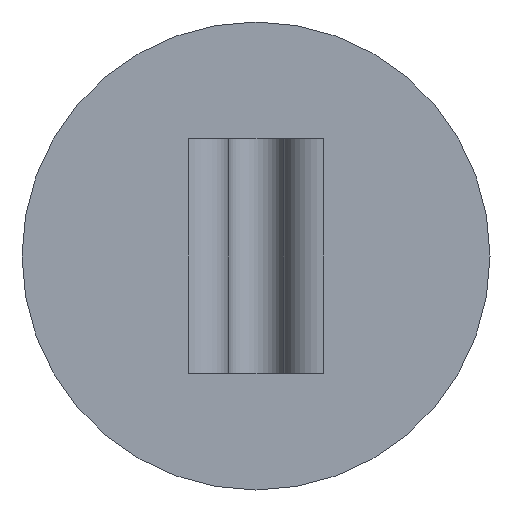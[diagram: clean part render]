
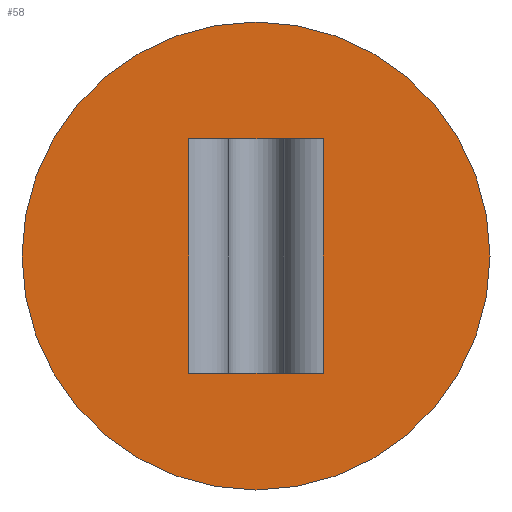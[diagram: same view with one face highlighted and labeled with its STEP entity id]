
A CAD part, front view. The second image highlights one B-rep face of the part: STEP entity #58.
In plain terms, the highlighted planar face has unit normal (0, -1, 0).
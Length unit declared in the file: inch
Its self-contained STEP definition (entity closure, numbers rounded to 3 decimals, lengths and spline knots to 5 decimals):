
#3 = CARTESIAN_POINT ( 'NONE',  ( 0., -0.075, 0.3135 ) ) ;
#20 = CARTESIAN_POINT ( 'NONE',  ( -0.17937, -0.075, 0.627 ) ) ;
#31 = DIRECTION ( 'NONE',  ( 1., 0., 0. ) ) ;
#37 = PLANE ( 'NONE',  #440 ) ;
#43 = VECTOR ( 'NONE', #326, 39.37008 ) ;
#52 = ORIENTED_EDGE ( 'NONE', *, *, #513, .T. ) ;
#58 = ADVANCED_FACE ( 'NONE', ( #206, #415 ), #37, .F. ) ;
#74 = LINE ( 'NONE', #448, #91 ) ;
#77 = EDGE_CURVE ( 'NONE', #277, #389, #333, .T. ) ;
#90 = AXIS2_PLACEMENT_3D ( 'NONE', #253, #471, #259 ) ;
#91 = VECTOR ( 'NONE', #396, 39.37008 ) ;
#95 = CARTESIAN_POINT ( 'NONE',  ( -0.625, -0.075, 0.3135 ) ) ;
#101 = CIRCLE ( 'NONE', #90, 0.625 ) ;
#109 = CIRCLE ( 'NONE', #421, 0.625 ) ;
#112 = ORIENTED_EDGE ( 'NONE', *, *, #358, .T. ) ;
#123 = VERTEX_POINT ( 'NONE', #298 ) ;
#135 = VECTOR ( 'NONE', #503, 39.37008 ) ;
#148 = LINE ( 'NONE', #486, #533 ) ;
#200 = CARTESIAN_POINT ( 'NONE',  ( -0.625, -0.075, 0.627 ) ) ;
#203 = VERTEX_POINT ( 'NONE', #95 ) ;
#206 = FACE_OUTER_BOUND ( 'NONE', #235, .T. ) ;
#207 = DIRECTION ( 'NONE',  ( 0., -1., 0. ) ) ;
#224 = EDGE_CURVE ( 'NONE', #203, #356, #101, .T. ) ;
#226 = LINE ( 'NONE', #399, #43 ) ;
#234 = CARTESIAN_POINT ( 'NONE',  ( 0.625, -0.075, 0.3135 ) ) ;
#235 = EDGE_LOOP ( 'NONE', ( #52, #468 ) ) ;
#253 = CARTESIAN_POINT ( 'NONE',  ( 0., -0.075, 0.3135 ) ) ;
#259 = DIRECTION ( 'NONE',  ( 1., 0., 0. ) ) ;
#277 = VERTEX_POINT ( 'NONE', #512 ) ;
#298 = CARTESIAN_POINT ( 'NONE',  ( 0.17937, -0.075, 0.627 ) ) ;
#326 = DIRECTION ( 'NONE',  ( 1., 0., 0. ) ) ;
#330 = ORIENTED_EDGE ( 'NONE', *, *, #378, .F. ) ;
#333 = LINE ( 'NONE', #497, #135 ) ;
#337 = DIRECTION ( 'NONE',  ( 1., 0., 0. ) ) ;
#356 = VERTEX_POINT ( 'NONE', #234 ) ;
#358 = EDGE_CURVE ( 'NONE', #389, #123, #226, .T. ) ;
#366 = EDGE_LOOP ( 'NONE', ( #528, #404, #112, #330 ) ) ;
#375 = DIRECTION ( 'NONE',  ( 0., 1., 0. ) ) ;
#378 = EDGE_CURVE ( 'NONE', #437, #123, #74, .T. ) ;
#389 = VERTEX_POINT ( 'NONE', #20 ) ;
#392 = EDGE_CURVE ( 'NONE', #277, #437, #148, .T. ) ;
#396 = DIRECTION ( 'NONE',  ( 0., 0., 1. ) ) ;
#399 = CARTESIAN_POINT ( 'NONE',  ( -0.17937, -0.075, 0.627 ) ) ;
#404 = ORIENTED_EDGE ( 'NONE', *, *, #77, .T. ) ;
#415 = FACE_BOUND ( 'NONE', #366, .T. ) ;
#421 = AXIS2_PLACEMENT_3D ( 'NONE', #3, #207, #337 ) ;
#437 = VERTEX_POINT ( 'NONE', #523 ) ;
#440 = AXIS2_PLACEMENT_3D ( 'NONE', #200, #375, #458 ) ;
#448 = CARTESIAN_POINT ( 'NONE',  ( 0.17937, -0.075, 0. ) ) ;
#458 = DIRECTION ( 'NONE',  ( 0., 0., 1. ) ) ;
#468 = ORIENTED_EDGE ( 'NONE', *, *, #224, .T. ) ;
#471 = DIRECTION ( 'NONE',  ( 0., -1., 0. ) ) ;
#486 = CARTESIAN_POINT ( 'NONE',  ( -0.17937, -0.075, 0. ) ) ;
#497 = CARTESIAN_POINT ( 'NONE',  ( -0.17937, -0.075, 0. ) ) ;
#503 = DIRECTION ( 'NONE',  ( 0., 0., 1. ) ) ;
#512 = CARTESIAN_POINT ( 'NONE',  ( -0.17937, -0.075, 0. ) ) ;
#513 = EDGE_CURVE ( 'NONE', #356, #203, #109, .T. ) ;
#523 = CARTESIAN_POINT ( 'NONE',  ( 0.17937, -0.075, 0. ) ) ;
#528 = ORIENTED_EDGE ( 'NONE', *, *, #392, .F. ) ;
#533 = VECTOR ( 'NONE', #31, 39.37008 ) ;
